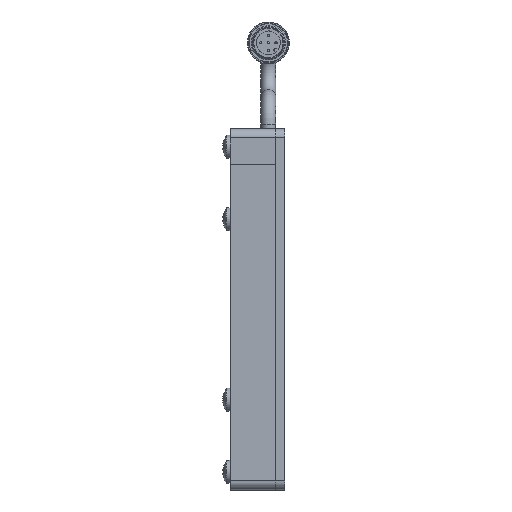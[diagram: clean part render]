
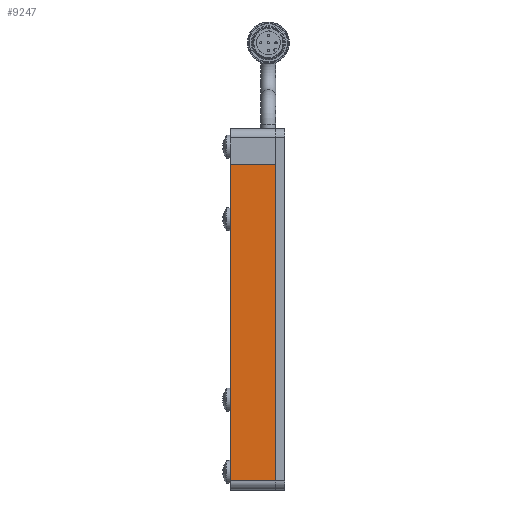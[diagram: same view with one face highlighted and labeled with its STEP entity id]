
A CAD part, left-side view. The second image highlights one B-rep face of the part: STEP entity #9247.
In plain terms, the highlighted planar face has unit normal (-1, 0, 0) as drawn and (0, 0, -1) by its records, which use the part's own axes.
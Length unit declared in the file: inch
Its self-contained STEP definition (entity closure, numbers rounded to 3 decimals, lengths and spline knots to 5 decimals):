
#453 = EDGE_CURVE ( 'NONE', #13749, #4369, #6571, .T. ) ;
#1512 = EDGE_CURVE ( 'NONE', #16496, #4369, #5900, .T. ) ;
#1742 = EDGE_CURVE ( 'NONE', #13749, #17324, #10920, .T. ) ;
#4369 = VERTEX_POINT ( 'NONE', #4800 ) ;
#4716 = EDGE_CURVE ( 'NONE', #17324, #16496, #6177, .T. ) ;
#4800 = CARTESIAN_POINT ( 'NONE',  ( -2., 0.3125, -0.25 ) ) ;
#5633 = PLANE ( 'NONE',  #16316 ) ;
#5900 = LINE ( 'NONE', #16715, #6287 ) ;
#6165 = VECTOR ( 'NONE', #17083, 39.37008 ) ;
#6177 = LINE ( 'NONE', #8945, #6165 ) ;
#6231 = ORIENTED_EDGE ( 'NONE', *, *, #1512, .T. ) ;
#6287 = VECTOR ( 'NONE', #15281, 39.37008 ) ;
#6571 = LINE ( 'NONE', #12019, #7732 ) ;
#7732 = VECTOR ( 'NONE', #7993, 39.37008 ) ;
#7993 = DIRECTION ( 'NONE',  ( -1., 0., 0. ) ) ;
#8276 = ORIENTED_EDGE ( 'NONE', *, *, #453, .F. ) ;
#8308 = CARTESIAN_POINT ( 'NONE',  ( 2.375, 0.3125, -0.25 ) ) ;
#8559 = CARTESIAN_POINT ( 'NONE',  ( -2., -0.3125, -0.25 ) ) ;
#8829 = VECTOR ( 'NONE', #12173, 39.37008 ) ;
#8945 = CARTESIAN_POINT ( 'NONE',  ( -2.5, -0.3125, -0.25 ) ) ;
#9247 = ADVANCED_FACE ( 'NONE', ( #12404 ), #5633, .F. ) ;
#9718 = DIRECTION ( 'NONE',  ( 0., 0., 1. ) ) ;
#9988 = CARTESIAN_POINT ( 'NONE',  ( 2.375, -0.3125, -0.25 ) ) ;
#10186 = ORIENTED_EDGE ( 'NONE', *, *, #4716, .T. ) ;
#10708 = EDGE_LOOP ( 'NONE', ( #8276, #11681, #10186, #6231 ) ) ;
#10792 = CARTESIAN_POINT ( 'NONE',  ( 2.375, 0.3125, -0.25 ) ) ;
#10920 = LINE ( 'NONE', #8308, #8829 ) ;
#11057 = CARTESIAN_POINT ( 'NONE',  ( -2.5, 0.3125, -0.25 ) ) ;
#11681 = ORIENTED_EDGE ( 'NONE', *, *, #1742, .T. ) ;
#12019 = CARTESIAN_POINT ( 'NONE',  ( -2.5, 0.3125, -0.25 ) ) ;
#12173 = DIRECTION ( 'NONE',  ( 0., -1., 0. ) ) ;
#12404 = FACE_OUTER_BOUND ( 'NONE', #10708, .T. ) ;
#13749 = VERTEX_POINT ( 'NONE', #10792 ) ;
#15171 = DIRECTION ( 'NONE',  ( 1., 0., 0. ) ) ;
#15281 = DIRECTION ( 'NONE',  ( 0., 1., 0. ) ) ;
#16316 = AXIS2_PLACEMENT_3D ( 'NONE', #11057, #9718, #15171 ) ;
#16496 = VERTEX_POINT ( 'NONE', #8559 ) ;
#16715 = CARTESIAN_POINT ( 'NONE',  ( -2., -0.3125, -0.25 ) ) ;
#17083 = DIRECTION ( 'NONE',  ( -1., 0., 0. ) ) ;
#17324 = VERTEX_POINT ( 'NONE', #9988 ) ;
